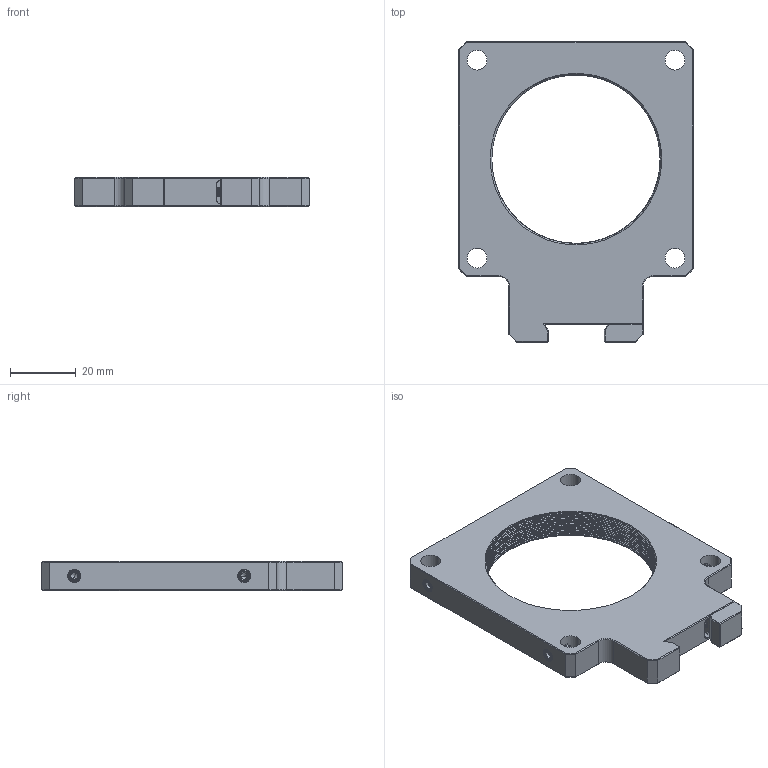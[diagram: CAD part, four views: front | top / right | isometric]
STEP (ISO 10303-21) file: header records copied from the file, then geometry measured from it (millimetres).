
FILE_DESCRIPTION((''),'2;1');
FILE_NAME('LRA60-A_ASM','2024-12-04T16:57:50',('R&D'),(''),'CREO PARAMETRIC BY PTC INC, 2021063','CREO PARAMETRIC BY PTC INC, 2021063','');
FILE_SCHEMA(('CONFIG_CONTROL_DESIGN'));
Products named in the file (11): LRA60-A-A3; LRA60-A-A4; LRA60-A-A5; LRA60-A-A6; LRA60-A-A7; LRA60-A-A8; LRA60-A-A9; LRA60-A-B1; LRA60-A-A2_ASM; LRA60-A-A1_ASM; LRA60-A_ASM
Assembly tree (10 placements, depth 4):
  LRA60-A_ASM
    LRA60-A-A1_ASM
      LRA60-A-A2_ASM
        LRA60-A-A3
        LRA60-A-A4
        LRA60-A-A5
        LRA60-A-A6
        LRA60-A-A7
        LRA60-A-A8
        LRA60-A-A9
        LRA60-A-B1
Bounding box: 71.12 x 91.04 x 8.92 mm (x, y, z)
Volume: 31268.4 mm3; surface area: 14645.2 mm2
Topology: 8 solids, 8 shells, 731 faces, 1988 edges, 1253 vertices
Faces by surface type: cylinder 316, bspline 163, plane 159, cone 81, torus 8, extrusion 4
Entity records: 81079 total; most frequent: CARTESIAN_POINT 64954, ORIENTED_EDGE 3924, DIRECTION 2302, EDGE_CURVE 1962, VERTEX_POINT 1253, B_SPLINE_CURVE_WITH_KNOTS 1034, AXIS2_PLACEMENT_3D 772, EDGE_LOOP 759
